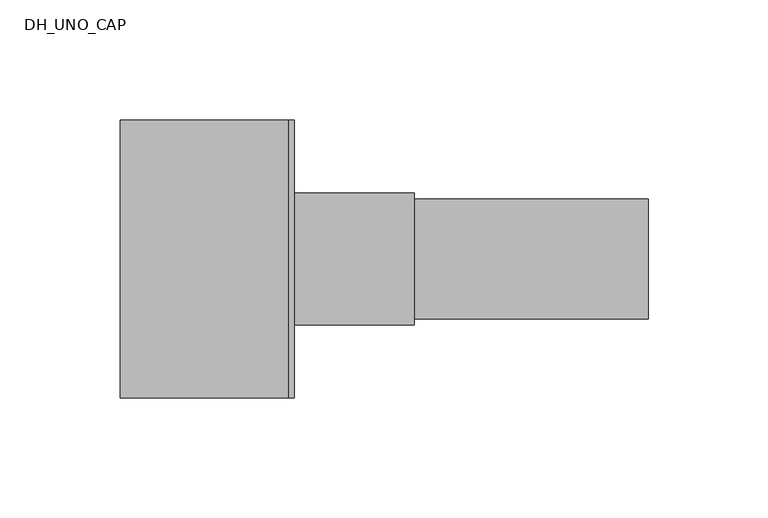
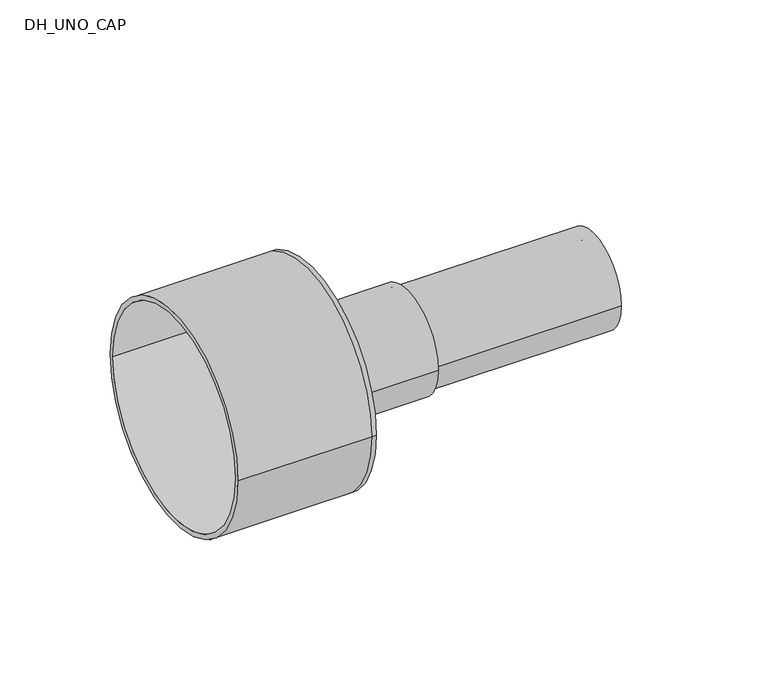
"""IFC4 building model written with IfcOpenShell, lengths in millimetres: pipe fitting geometry, DH_UNO_CAP : RAUTHERMEX UNO 7.4 DW - Rubber Cap."""

import ifcopenshell
import ifcopenshell.guid

model = None  # the IFC model being written
_history = None  # IfcOwnerHistory: only IFC2X3 demands one
_inside = {}  # id of a spatial element -> (the spatial element, [elements in it])
_under = {}  # id of a project, library or spatial element -> (it, [spatial elements below it])
_declared = {}  # id of a project -> (the project, [libraries it declares])
_typed = {}  # id of a type object -> (the type object, [elements of that type])
_made_of = {}  # id of a material, layer set ... -> (it, [elements and type objects made of it])


def new_model(schema):
    """Start an empty IFC model of exactly this schema.

    Asked for "IFC4X3", IfcOpenShell would pick the latest addendum, in which some entities
    have other attributes; the version numbers below select the first issue.
    IFC2X3 requires an IfcOwnerHistory on every rooted entity: one is made here for all.
    """
    global model, _history
    if schema == "IFC4X3":
        model = ifcopenshell.file(schema_version=(4, 3, 0, 0))
    else:
        model = ifcopenshell.file(schema=schema)
    _inside.clear()
    _under.clear()
    _declared.clear()
    _typed.clear()
    _made_of.clear()
    _history = None
    if model.schema == "IFC2X3":
        org = make("IfcOrganization", Name="unknown")
        user = make(
            "IfcPersonAndOrganization",
            ThePerson=make("IfcPerson", FamilyName="unknown"),
            TheOrganization=org,
        )
        app = make(
            "IfcApplication",
            ApplicationDeveloper=org,
            Version="unknown",
            ApplicationFullName="unknown",
            ApplicationIdentifier="unknown",
        )
        _history = make(
            "IfcOwnerHistory",
            OwningUser=user,
            OwningApplication=app,
            ChangeAction="ADDED",
            CreationDate=0,
        )
    return model


def make(cls, **values):
    """One entity of the class cls with the attributes given. An attribute that is None is left unset."""
    return model.create_entity(
        cls, **{name: value for name, value in values.items() if value is not None}
    )


def rooted(cls, **values):
    """An entity with a GlobalId (a new one), such as an element, a storey or a relation."""
    return make(cls, GlobalId=ifcopenshell.guid.new(), OwnerHistory=_history, **values)


def si_unit(unit_type, name, prefix=None):
    """IfcSIUnit, for example si_unit("LENGTHUNIT", "METRE", prefix="MILLI")."""
    return make("IfcSIUnit", UnitType=unit_type, Prefix=prefix, Name=name)


def assignment(units):
    """IfcUnitAssignment: the units of a project."""
    return None if units is None else make("IfcUnitAssignment", Units=units)


def point(xyz):
    """IfcCartesianPoint."""
    return None if xyz is None else make("IfcCartesianPoint", Coordinates=xyz)


def direction(xyz):
    """IfcDirection."""
    return None if xyz is None else make("IfcDirection", DirectionRatios=xyz)


def frame(location, z_axis=None, x_axis=None):
    """IfcAxis2Placement3D, a coordinate frame: its origin and axes. An axis left out is left unset."""
    return make(
        "IfcAxis2Placement3D",
        Location=point(location),
        Axis=direction(z_axis),
        RefDirection=direction(x_axis),
    )


def frame_2d(location, x_axis=None):
    """IfcAxis2Placement2D, a coordinate frame in the plane: its origin and x axis."""
    return make(
        "IfcAxis2Placement2D", Location=point(location), RefDirection=direction(x_axis)
    )


def origin():
    """The frame at (0, 0, 0) with its axes left unset."""
    return frame((0.0, 0.0, 0.0))


def origin_2d():
    """The frame at (0, 0) in the plane with its x axis left unset."""
    return frame_2d((0.0, 0.0))


def place(relative_to, where):
    """IfcLocalPlacement: puts the frame where relative to a parent placement (None: the world)."""
    return make(
        "IfcLocalPlacement", PlacementRelTo=relative_to, RelativePlacement=where
    )


def context(
    kind, dimensions, precision=None, world=None, true_north=None, identifier=None
):
    """IfcGeometricRepresentationContext, for example the 3D "Model" context."""
    return make(
        "IfcGeometricRepresentationContext",
        ContextIdentifier=identifier,
        ContextType=kind,
        CoordinateSpaceDimension=dimensions,
        Precision=precision,
        WorldCoordinateSystem=world,
        TrueNorth=true_north,
    )


def project(units=None, contexts=None):
    """IfcProject with its units and contexts."""
    return rooted(
        "IfcProject",
        Name="project",
        RepresentationContexts=contexts,
        UnitsInContext=assignment(units),
    )


def spatial(cls, under=None, at=None, **own):
    """A site, building, storey or space (cls), placed at a placement, below another one or the project."""
    s = rooted(cls, ObjectPlacement=at, **own)
    if under is not None:
        _under.setdefault(under.id(), (under, []))[1].append(s)
    return s


def polyline(points):
    """IfcPolyline through the points."""
    return make("IfcPolyline", Points=[point(p) for p in points])


def circle_curve(where, radius):
    """IfcCircle in the frame where."""
    return make("IfcCircle", Position=where, Radius=radius)


def trimmed(basis, trim1, trim2, sense, master):
    """IfcTrimmedCurve: the piece of a basis curve between two trims."""
    return make(
        "IfcTrimmedCurve",
        BasisCurve=basis,
        Trim1=trim1,
        Trim2=trim2,
        SenseAgreement=sense,
        MasterRepresentation=master,
    )


def segment(curve, same_sense, transition):
    """IfcCompositeCurveSegment."""
    return make(
        "IfcCompositeCurveSegment",
        Transition=transition,
        SameSense=same_sense,
        ParentCurve=curve,
    )


def composite_curve(segments, self_intersect=None):
    """IfcCompositeCurve: segments joined end to end."""
    return make("IfcCompositeCurve", Segments=segments, SelfIntersect=self_intersect)


def outline(outer, holes=None, kind="AREA"):
    """IfcArbitraryClosedProfileDef: a profile drawn as a closed curve; with holes, ...WithVoids."""
    if holes is None:
        return make("IfcArbitraryClosedProfileDef", ProfileType=kind, OuterCurve=outer)
    return make(
        "IfcArbitraryProfileDefWithVoids",
        ProfileType=kind,
        OuterCurve=outer,
        InnerCurves=holes,
    )


def extrude(swept, where, along, depth):
    """IfcExtrudedAreaSolid: the profile swept, set in the frame where, extruded along a direction by depth."""
    return make(
        "IfcExtrudedAreaSolid",
        SweptArea=swept,
        Position=where,
        ExtrudedDirection=direction(along),
        Depth=depth,
    )


def shape(context_of_items, identifier, shape_type, items):
    """IfcShapeRepresentation: the items that make up one representation, for example the "Body"."""
    return make(
        "IfcShapeRepresentation",
        ContextOfItems=context_of_items,
        RepresentationIdentifier=identifier,
        RepresentationType=shape_type,
        Items=items,
    )


def source(mapping_origin, context_of_items, identifier, shape_type, items):
    """IfcRepresentationMap: a shape defined once, which mapped items show again and again."""
    return make(
        "IfcRepresentationMap",
        MappingOrigin=mapping_origin,
        MappedRepresentation=shape(context_of_items, identifier, shape_type, items),
    )


def transform(
    local_origin,
    x_axis=None,
    y_axis=None,
    z_axis=None,
    scale=None,
    scale2=None,
    scale3=None,
    uniform=True,
):
    """IfcCartesianTransformationOperator3D, or its non-uniform kind. x_axis, y_axis, z_axis: its Axis1, 2, 3."""
    if uniform:
        return make(
            "IfcCartesianTransformationOperator3D",
            Axis1=direction(x_axis),
            Axis2=direction(y_axis),
            LocalOrigin=point(local_origin),
            Scale=scale,
            Axis3=direction(z_axis),
        )
    return make(
        "IfcCartesianTransformationOperator3DnonUniform",
        Axis1=direction(x_axis),
        Axis2=direction(y_axis),
        LocalOrigin=point(local_origin),
        Scale=scale,
        Axis3=direction(z_axis),
        Scale2=scale2,
        Scale3=scale3,
    )


def mapped(mapping_source, mapping_target):
    """IfcMappedItem: shows the shape of a source again, moved by a transform."""
    return make(
        "IfcMappedItem", MappingSource=mapping_source, MappingTarget=mapping_target
    )


def made_of(thing, what):
    """Note that an element or type object is made of a material, layer set ...; save() writes the relation."""
    if what is not None:
        _made_of.setdefault(what.id(), (what, []))[1].append(thing)
    return thing


def element(
    cls,
    number,
    at=None,
    inside=None,
    cuts=None,
    type_object=None,
    material=None,
    context=None,
    identifier="Body",
    shape_type=None,
    held_by="IfcProductDefinitionShape",
    body=None,
    shapes=None,
    **own,
):
    """One element of the class cls, such as IfcWall. Its Tag is "e" and its number.

    at: its placement. inside: the storey or other place that contains it. cuts: it is an
    opening in that element (IfcRelVoidsElement). A single representation is given by context,
    identifier, shape_type and body (its items); several are given by shapes. held_by: the class
    of the entity that holds the representations. save() writes the other relations.
    """
    e = rooted(cls, Tag="e%d" % number, ObjectPlacement=at, **own)
    if body is not None:
        shapes = [shape(context, identifier, shape_type, body)]
    if shapes is not None:
        e.Representation = make(held_by, Representations=shapes)
    if inside is not None:
        _inside.setdefault(inside.id(), (inside, []))[1].append(e)
    if cuts is not None:
        rooted(
            "IfcRelVoidsElement", RelatingBuildingElement=cuts, RelatedOpeningElement=e
        )
    if type_object is not None:
        _typed.setdefault(type_object.id(), (type_object, []))[1].append(e)
    return made_of(e, material)


def aggregate(whole, parts):
    """IfcRelAggregates: a whole, such as a stair, and the parts it consists of."""
    return rooted("IfcRelAggregates", RelatingObject=whole, RelatedObjects=parts)


def save(model, path):
    """Write the relations noted so far, then the file.

    IfcRelAggregates (storeys below a building ...), IfcRelContainedInSpatialStructure (elements
    in a storey), IfcRelDefinesByType, IfcRelAssociatesMaterial and IfcRelDeclares: one each for
    every whole, place, type object, material and project.
    """
    for whole, parts in _under.values():
        aggregate(whole, parts)
    for where, things in _inside.values():
        rooted(
            "IfcRelContainedInSpatialStructure",
            RelatedElements=things,
            RelatingStructure=where,
        )
    for kind, things in _typed.values():
        rooted("IfcRelDefinesByType", RelatedObjects=things, RelatingType=kind)
    for what, things in _made_of.values():
        rooted("IfcRelAssociatesMaterial", RelatedObjects=things, RelatingMaterial=what)
    for by, libraries in _declared.values():
        rooted("IfcRelDeclares", RelatingContext=by, RelatedDefinitions=libraries)
    model.write(path)


def plane_surface(at):
    """IfcPlane: the flat surface through the origin of the frame at, square to its z axis."""
    return make("IfcPlane", Position=at)


def cylinder_surface(at, radius):
    """IfcCylindricalSurface: all points at the distance radius from the z axis of the frame at."""
    return make("IfcCylindricalSurface", Position=at, Radius=radius)


def revolved_surface(curve, axis_point, axis_direction):
    """IfcSurfaceOfRevolution: the curve turned about the line through axis_point along axis_direction."""
    return make(
        "IfcSurfaceOfRevolution",
        SweptCurve=make("IfcArbitraryOpenProfileDef", ProfileType="CURVE", Curve=curve),
        AxisPosition=make("IfcAxis1Placement", Location=point(axis_point), Axis=direction(axis_direction)),
    )


def advanced_brep(points, edges, surfaces, faces):
    """IfcAdvancedBrep: a solid bounded by faces that lie on surfaces and meet in shared edges.

    An edge is (start, end): straight between two places in points (the first is 0);
    or (start, end, curve); or (start, end, curve, False) where it runs against its curve.
    A face is (place in surfaces, loops), or (place, loops, False) where it looks against
    its surface's normal. A loop lists edges by number (the first is 1), with a minus sign
    where the edge is run from its end to its start. The first loop is the outer one.
    """
    corners = [point(p) for p in points]
    vertices = [make("IfcVertexPoint", VertexGeometry=c) for c in corners]
    made = []
    for start, end, *more in edges:
        made.append(
            make(
                "IfcEdgeCurve",
                EdgeStart=vertices[start],
                EdgeEnd=vertices[end],
                EdgeGeometry=more[0] if more else make("IfcPolyline", Points=[corners[start], corners[end]]),
                SameSense=more[1] if len(more) > 1 else True,
            )
        )
    hull = []
    for where, loops, *sense in faces:
        bounds = []
        for j, loop in enumerate(loops):
            ring = [make("IfcOrientedEdge", EdgeElement=made[abs(k) - 1], Orientation=k > 0) for k in loop]
            bounds.append(
                make(
                    "IfcFaceOuterBound" if j == 0 else "IfcFaceBound",
                    Bound=make("IfcEdgeLoop", EdgeList=ring),
                    Orientation=True,
                )
            )
        hull.append(make("IfcAdvancedFace", Bounds=bounds, FaceSurface=surfaces[where], SameSense=sense[0] if sense else True))
    return make("IfcAdvancedBrep", Outer=make("IfcClosedShell", CfsFaces=hull))


def dh_uno_cap_cec79eb2(model_context):
    return source(origin(), model_context, "Body", "SolidModel", [
        extrude(outline(composite_curve([segment(trimmed(circle_curve(origin_2d(), 25.0), [point((-25.0, 0.0))], [point((25.0, 0.0))], False, "CARTESIAN"), True, "CONTINUOUS"), segment(trimmed(circle_curve(origin_2d(), 25.0), [point((25.0, 0.0))], [point((-25.0, 0.0))], False, "CARTESIAN"), True, "CONTINUOUS")], self_intersect=False), holes=[composite_curve([segment(trimmed(circle_curve(origin_2d(), 18.1), [point((-18.1, 0.0))], [point((18.1, 0.0))], True, "CARTESIAN"), True, "CONTINUOUS"), segment(trimmed(circle_curve(origin_2d(), 18.1), [point((18.1, 0.0))], [point((-18.1, 0.0))], True, "CARTESIAN"), True, "CONTINUOUS")], self_intersect=False)]), frame((0.0, 0.0, 0.0), z_axis=(1.0, 0.0, 0.0), x_axis=(0.0, 1.0, 0.0)), (0.0, 0.0, 1.0), 150.0),
        advanced_brep(
        [(-70.0, -58.0, 0.0), (-70.0, 58.0, 0.0), (-70.0, -55.5, 0.0), (-70.0, 55.5, 0.0), (0.0, -55.5, 0.0), (0.0, 55.5, 0.0), (0.0, -58.0, 0.0), (0.0, 58.0, 0.0), (0.0, 25.0, 0.0), (0.0, -25.0, 0.0), (2.5, -58.0, 0.0), (2.5, 58.0, 0.0), (2.5, -25.0, 0.0), (2.5, 25.0, 0.0)],
        [
            (0, 1, circle_curve(frame((-70.0, 0.0, 0.0), z_axis=(-1.0, 0.0, 0.0), x_axis=(0.0, 1.0, 0.0)), 58.0)),
            (1, 0, circle_curve(frame((-70.0, 0.0, 0.0), z_axis=(-1.0, 0.0, 0.0), x_axis=(0.0, 1.0, 0.0)), 58.0)),
            (2, 3, circle_curve(frame((-70.0, 0.0, 0.0), z_axis=(1.0, 0.0, 0.0), x_axis=(0.0, 1.0, 0.0)), 55.5)),
            (3, 2, circle_curve(frame((-70.0, 0.0, 0.0), z_axis=(1.0, 0.0, 0.0), x_axis=(0.0, 1.0, 0.0)), 55.5)),
            (2, 4),
            (4, 5, circle_curve(frame((0.0, 0.0, 0.0), z_axis=(1.0, 0.0, 0.0), x_axis=(0.0, 1.0, 0.0)), 55.5)),
            (5, 3),
            (5, 4, circle_curve(frame((0.0, 0.0, 0.0), z_axis=(1.0, 0.0, 0.0), x_axis=(0.0, 1.0, 0.0)), 55.5)),
            (0, 6),
            (6, 7, circle_curve(frame((0.0, 0.0, 0.0), z_axis=(-1.0, 0.0, 0.0), x_axis=(0.0, 1.0, 0.0)), 58.0)),
            (7, 1),
            (7, 6, circle_curve(frame((0.0, 0.0, 0.0), z_axis=(-1.0, 0.0, 0.0), x_axis=(0.0, 1.0, 0.0)), 58.0)),
            (8, 9, circle_curve(frame((0.0, 0.0, 0.0), z_axis=(1.0, 0.0, 0.0), x_axis=(0.0, 1.0, 0.0)), 25.0)),
            (9, 8, circle_curve(frame((0.0, 0.0, 0.0), z_axis=(1.0, 0.0, 0.0), x_axis=(0.0, 1.0, 0.0)), 25.0)),
            (10, 11, circle_curve(frame((2.5, 0.0, 0.0), z_axis=(1.0, 0.0, 0.0), x_axis=(0.0, 1.0, 0.0)), 58.0)),
            (11, 10, circle_curve(frame((2.5, 0.0, 0.0), z_axis=(1.0, 0.0, 0.0), x_axis=(0.0, 1.0, 0.0)), 58.0)),
            (12, 13, circle_curve(frame((2.5, 0.0, 0.0), z_axis=(-1.0, 0.0, 0.0), x_axis=(0.0, 1.0, 0.0)), 25.0)),
            (13, 12, circle_curve(frame((2.5, 0.0, 0.0), z_axis=(-1.0, 0.0, 0.0), x_axis=(0.0, 1.0, 0.0)), 25.0)),
            (11, 7),
            (6, 10),
            (8, 13),
            (12, 9),
        ],
        [
            plane_surface(frame((-70.0, 0.0, 0.0), z_axis=(-1.0, 0.0, 0.0), x_axis=(0.0, 0.0, 1.0))),
            revolved_surface(polyline([(0.0, 55.5, 0.0), (-70.0, 55.5, 0.0)]), (-70.0, 0.0, 0.0), (1.0, 0.0, 0.0)),
            cylinder_surface(frame((-70.0, 0.0, 0.0), z_axis=(-1.0, 0.0, 0.0), x_axis=(0.0, 1.0, 0.0)), 58.0),
            plane_surface(frame((0.0, 0.0, 0.0), z_axis=(-1.0, 0.0, 0.0), x_axis=(0.0, 0.0, 1.0))),
            plane_surface(frame((2.5, 0.0, 0.0), z_axis=(1.0, 0.0, 0.0), x_axis=(0.0, 0.0, 1.0))),
            cylinder_surface(frame((0.0, 0.0, 0.0), z_axis=(-1.0, 0.0, 0.0), x_axis=(0.0, 1.0, 0.0)), 58.0),
            revolved_surface(polyline([(0.0, 25.0, 0.0), (2.5, 25.0, 0.0)]), (0.0, 0.0, 0.0), (-1.0, 0.0, 0.0)),
        ],
        [
            (0, [[1, 2], [3, 4]]),
            (1, [[-3, 5, 6, 7]]),
            (1, [[-4, -7, 8, -5]]),
            (2, [[-1, 9, 10, 11]]),
            (2, [[-2, -11, 12, -9]]),
            (3, [[-6, -8], [13, 14]]),
            (4, [[15, 16], [17, 18]]),
            (5, [[-16, 19, -10, 20]]),
            (5, [[-15, -20, -12, -19]]),
            (6, [[21, -17, 22, -13]]),
            (6, [[-21, -14, -22, -18]]),
        ],
    ),
        extrude(outline(composite_curve([segment(trimmed(circle_curve(origin_2d(), 27.5), [point((-27.5, 0.0))], [point((27.5, 0.0))], False, "CARTESIAN"), True, "CONTINUOUS"), segment(trimmed(circle_curve(origin_2d(), 27.5), [point((27.5, 0.0))], [point((-27.5, 0.0))], False, "CARTESIAN"), True, "CONTINUOUS")], self_intersect=False), holes=[composite_curve([segment(trimmed(circle_curve(origin_2d(), 25.0), [point((-25.0, 0.0))], [point((25.0, 0.0))], True, "CARTESIAN"), True, "CONTINUOUS"), segment(trimmed(circle_curve(origin_2d(), 25.0), [point((25.0, 0.0))], [point((-25.0, 0.0))], True, "CARTESIAN"), True, "CONTINUOUS")], self_intersect=False)]), frame((2.5, 0.0, 0.0), z_axis=(1.0, 0.0, 0.0), x_axis=(0.0, 1.0, 0.0)), (0.0, 0.0, 1.0), 50.0),
    ])


if __name__ == "__main__":
    model = new_model("IFC4")
    model_context = context("Model", 3, world=origin())
    ifc_project = project(units=[si_unit("LENGTHUNIT", "METRE", prefix="MILLI")], contexts=[model_context])
    site = spatial("IfcSite", under=ifc_project)
    building = spatial("IfcBuilding", under=site)
    placement = place(None, origin())
    dh_uno_cap_shape = dh_uno_cap_cec79eb2(model_context)
    element("IfcPipeFitting", 1, ObjectType="DH_UNO_CAP : RAUTHERMEX UNO 7.4 DW - Rubber Cap", at=placement, inside=building, context=model_context, shape_type="MappedRepresentation", body=[
        mapped(dh_uno_cap_shape, transform((0.0, 0.0, 0.0), x_axis=(1.0, 0.0, 0.0), y_axis=(0.0, 1.0, 0.0), z_axis=(0.0, 0.0, 1.0))),
    ])
    save(model, "model.ifc")
